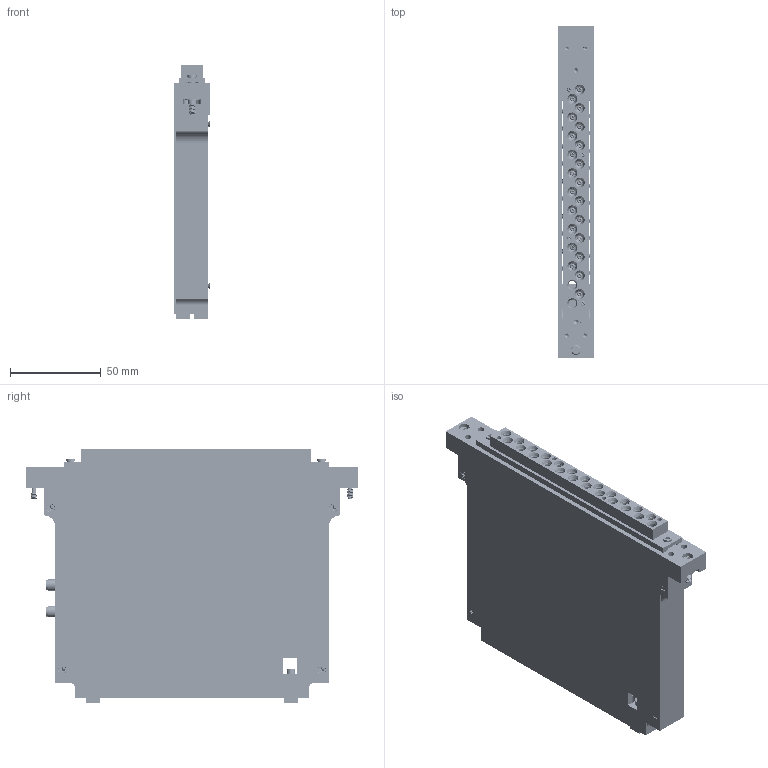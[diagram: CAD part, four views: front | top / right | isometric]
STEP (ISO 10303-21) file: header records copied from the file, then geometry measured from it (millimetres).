
FILE_DESCRIPTION((''),'2;1');
FILE_NAME('X:\CAD WIP\Shonte''_marketing\Inventor Web Projects\STP files\561899-RevA-STP.stp','2013-09-30T13:09:19',('shodnett'),(''),'Autodesk Inventor 2011','Autodesk Inventor 2011','');
FILE_SCHEMA(('AUTOMOTIVE_DESIGN { 1 0 10303 214 1 1 1 1 }'));
Length unit declared in the file: inch
Products named in the file (1): 561899-CU
Bounding box: 20.07 x 183.26 x 140.28 mm (x, y, z)
Surface area: 160193.9 mm2 (no closed solid volume)
Topology: 0 solids, 275 shells, 5595 faces, 12942 edges, 8204 vertices
Faces by surface type: plane 2657, cylinder 1261, bspline 1069, cone 500, torus 108
Full cylindrical faces by diameter (mm): 0.559 x22, 0.953 x22, 0.991 x22, 1.143 x44, 1.422 x22, 1.524 x28, 1.676 x22, 1.702 x4, 1.715 x2, 2.032 x30, 2.184 x20, 2.362 x4, 2.381 x6, 2.413 x1, 2.438 x8, 2.54 x34, 2.565 x22, 2.616 x4, 2.743 x22, 2.845 x16, 2.997 x1, 3.048 x22, 3.175 x22, 3.277 x44, 3.327 x22, 3.429 x22, 3.632 x22, 3.708 x22, 3.734 x25, 3.962 x4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
Entity records: 169142 total; most frequent: CARTESIAN_POINT 47267, ORIENTED_EDGE 22166, DIRECTION 21661, EDGE_CURVE 11193, AXIS2_PLACEMENT_3D 8126, EDGE_LOOP 7948, VERTEX_POINT 7931, FACE_OUTER_BOUND 5580
